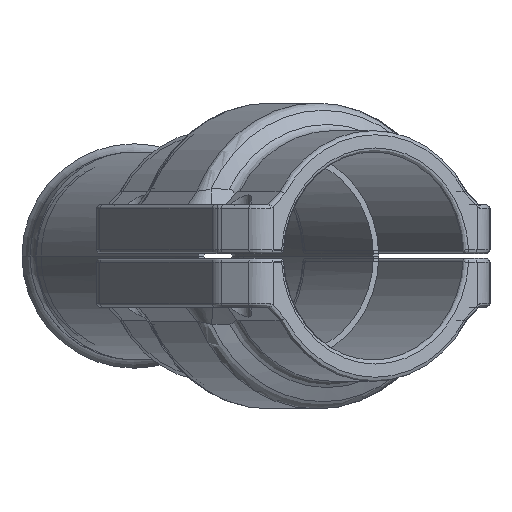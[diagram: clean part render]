
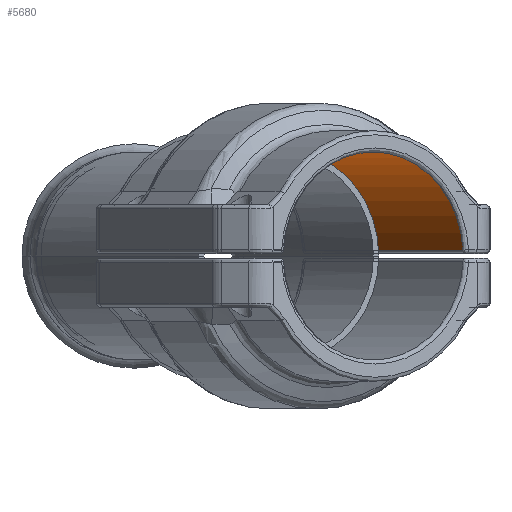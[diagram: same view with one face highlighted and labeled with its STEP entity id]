
A CAD part, left-side view. The second image highlights one B-rep face of the part: STEP entity #5680.
In plain terms, the highlighted cylindrical face has radius 25.25 mm (diameter 50.5 mm), a partial arc.
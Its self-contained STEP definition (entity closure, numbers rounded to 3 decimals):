
#3357=CARTESIAN_POINT('',(38.75,0.,0.));
#3358=DIRECTION('',(-1.,0.,0.));
#3359=DIRECTION('',(0.,-0.998,0.057));
#3360=AXIS2_PLACEMENT_3D('',#3357,#3358,#3359);
#3365=DIRECTION('',(-1.,0.,0.));
#3366=VECTOR('',#3365,77.5);
#3367=CARTESIAN_POINT('',(38.75,25.209,1.443));
#3368=LINE('',#3367,#3366);
#3372=CARTESIAN_POINT('',(-38.75,0.,0.));
#3373=DIRECTION('',(1.,0.,0.));
#3374=DIRECTION('',(0.,0.998,0.057));
#3375=AXIS2_PLACEMENT_3D('',#3372,#3373,#3374);
#3380=DIRECTION('',(1.,0.,0.));
#3381=VECTOR('',#3380,77.5);
#3382=CARTESIAN_POINT('',(-38.75,-25.209,1.443));
#3383=LINE('',#3382,#3381);
#5005=CARTESIAN_POINT('',(38.75,-25.209,1.443));
#5006=CARTESIAN_POINT('',(38.75,25.209,1.443));
#5007=VERTEX_POINT('',#5005);
#5008=VERTEX_POINT('',#5006);
#5013=CARTESIAN_POINT('',(-38.75,25.209,1.443));
#5014=VERTEX_POINT('',#5013);
#5019=CARTESIAN_POINT('',(-38.75,-25.209,1.443));
#5020=VERTEX_POINT('',#5019);
#5669=CARTESIAN_POINT('',(45.067,0.,0.));
#5670=DIRECTION('',(-1.,0.,0.));
#5671=DIRECTION('',(0.,0.,1.));
#5672=AXIS2_PLACEMENT_3D('',#5669,#5670,#5671);
#5673=CYLINDRICAL_SURFACE('',#5672,25.25);
#5674=ORIENTED_EDGE('',*,*,#5278,.T.);
#5675=ORIENTED_EDGE('',*,*,#5663,.T.);
#5676=ORIENTED_EDGE('',*,*,#5598,.T.);
#5677=ORIENTED_EDGE('',*,*,#5347,.T.);
#5678=EDGE_LOOP('',(#5674,#5675,#5676,#5677));
#5679=FACE_OUTER_BOUND('',#5678,.F.);
#3361=CIRCLE('',#3360,25.25);
#3376=CIRCLE('',#3375,25.25);
#5278=EDGE_CURVE('',#5007,#5008,#3361,.T.);
#5347=EDGE_CURVE('',#5020,#5007,#3383,.T.);
#5598=EDGE_CURVE('',#5014,#5020,#3376,.T.);
#5663=EDGE_CURVE('',#5008,#5014,#3368,.T.);
#5680=ADVANCED_FACE('',(#5679),#5673,.F.);
